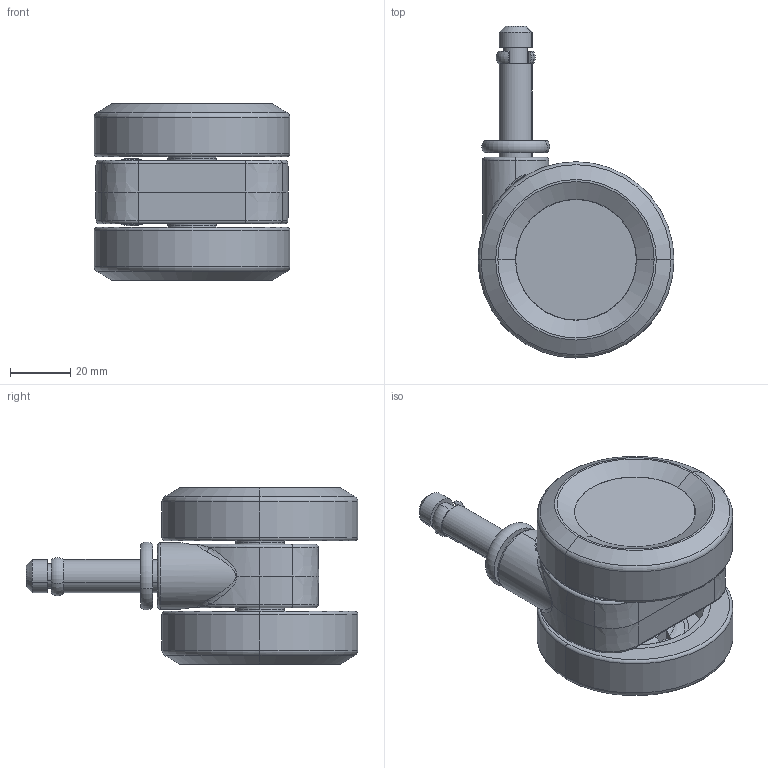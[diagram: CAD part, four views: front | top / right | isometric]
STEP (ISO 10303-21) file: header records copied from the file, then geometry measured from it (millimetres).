
FILE_DESCRIPTION (( 'STEP AP203' ), '1' );
FILE_NAME ('11100250247053.STEP', '2025-08-20T02:55:14', ( '20241006' ), ( '' ), 'SwSTEP 2.0', 'SolidWorks 2021', '' );
FILE_SCHEMA (( 'CONFIG_CONTROL_DESIGN' ));
Length unit declared in the file: millimetre
Products named in the file (7): 复件 2.5寸優優輪活動輪座^2.5寸活動優優輪（未装铁件）; 复件 2.5寸外包^复件 2.5寸輪片組_2.5寸活動優優輪（未装铁件）; ?11x38-圓頭22.5x4+铜環插杆; 复件 3''''雙球輪防塵蓋-1型^2.5寸活動優優輪（未装铁件）_預設; 复件 2.5''''優優輪內仁^复件 2.5寸輪片組_2.5寸活動優優輪（未装铁件）_預設; 复件 2.5寸輪片組^2.5寸活動優優輪（未装铁件）; 11100250247053
Assembly tree (8 placements, depth 3):
  11100250247053
    复件 2.5寸優優輪活動輪座^2.5寸活動優優輪（未装铁件）
    复件 2.5寸輪片組^2.5寸活動優優輪（未装铁件）  x2
      复件 2.5''''優優輪內仁^复件 2.5寸輪片組_2.5寸活動優優輪（未装铁件）_預設
      复件 2.5寸外包^复件 2.5寸輪片組_2.5寸活動優優輪（未装铁件）
    复件 3''''雙球輪防塵蓋-1型^2.5寸活動優優輪（未装铁件）_預設  x2
    ?11x38-圓頭22.5x4+铜環插杆
Bounding box: 65 x 110.08 x 58.5 mm (x, y, z)
Volume: 102096.5 mm3; surface area: 75401.7 mm2
Topology: 9 solids, 9 shells, 1063 faces, 3098 edges, 1994 vertices
Faces by surface type: plane 500, cylinder 389, cone 81, torus 73, bspline 18, sphere 2
Entity records: 23045 total; most frequent: CARTESIAN_POINT 5181, DIRECTION 3745, ORIENTED_EDGE 3644, EDGE_CURVE 1822, AXIS2_PLACEMENT_3D 1449, VERTEX_POINT 1172, LINE 847, VECTOR 847
